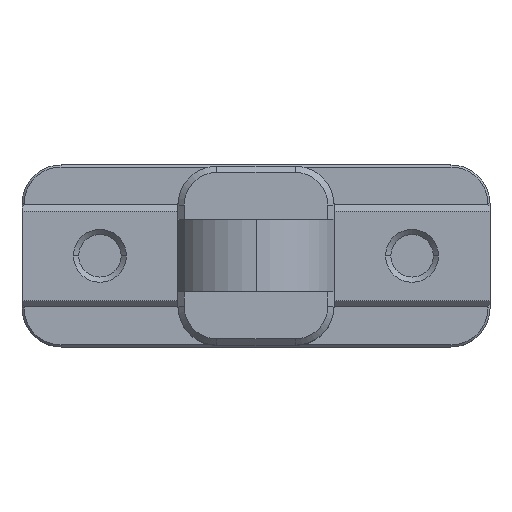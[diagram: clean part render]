
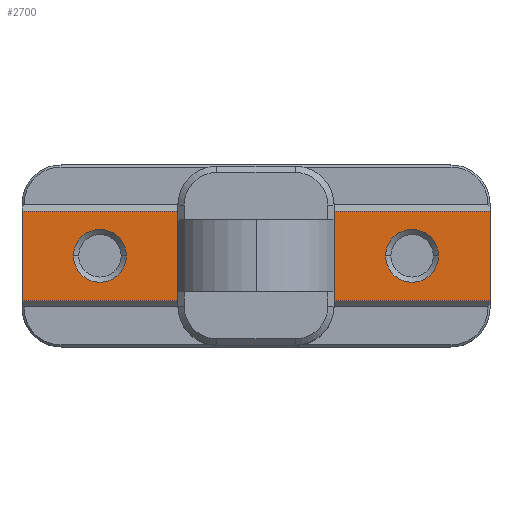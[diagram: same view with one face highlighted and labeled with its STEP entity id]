
A CAD part, top view. The second image highlights one B-rep face of the part: STEP entity #2700.
In plain terms, the highlighted planar face has unit normal (0, 0, 1).
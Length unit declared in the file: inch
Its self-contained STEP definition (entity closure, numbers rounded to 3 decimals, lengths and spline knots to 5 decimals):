
#223 = DIRECTION ( 'NONE',  ( 0., 0., -1. ) ) ;
#225 = FACE_BOUND ( 'NONE', #3395, .T. ) ;
#230 = CARTESIAN_POINT ( 'NONE',  ( -1.1245, -0.4375, 0.478 ) ) ;
#231 = FACE_BOUND ( 'NONE', #3396, .T. ) ;
#233 = FACE_OUTER_BOUND ( 'NONE', #3394, .T. ) ;
#234 = PLANE ( 'NONE',  #1378 ) ;
#236 = DIRECTION ( 'NONE',  ( -1., 0., 0. ) ) ;
#427 = VERTEX_POINT ( 'NONE', #3081 ) ;
#441 = VERTEX_POINT ( 'NONE', #3682 ) ;
#443 = VERTEX_POINT ( 'NONE', #3684 ) ;
#934 = LINE ( 'NONE', #935, #1073 ) ;
#935 = CARTESIAN_POINT ( 'NONE',  ( -1.1245, -0.4375, 0.478 ) ) ;
#936 = DIRECTION ( 'NONE',  ( 0., -1., 0. ) ) ;
#953 = CARTESIAN_POINT ( 'NONE',  ( -0.75, 0., 0.478 ) ) ;
#954 = DIRECTION ( 'NONE',  ( 0., 0., 1. ) ) ;
#955 = DIRECTION ( 'NONE',  ( 1., 0., 0. ) ) ;
#971 = CARTESIAN_POINT ( 'NONE',  ( 0.75, 0., 0.478 ) ) ;
#972 = DIRECTION ( 'NONE',  ( 0., 0., 1. ) ) ;
#973 = DIRECTION ( 'NONE',  ( 1., 0., 0. ) ) ;
#1073 = VECTOR ( 'NONE', #936, 39.37008 ) ;
#1076 = CIRCLE ( 'NONE', #1082, 0.127 ) ;
#1082 = AXIS2_PLACEMENT_3D ( 'NONE', #953, #954, #955 ) ;
#1089 = CIRCLE ( 'NONE', #1091, 0.127 ) ;
#1091 = AXIS2_PLACEMENT_3D ( 'NONE', #971, #972, #973 ) ;
#1359 = CIRCLE ( 'NONE', #1375, 0.127 ) ;
#1371 = VECTOR ( 'NONE', #5446, 39.37008 ) ;
#1375 = AXIS2_PLACEMENT_3D ( 'NONE', #5448, #5449, #5450 ) ;
#1378 = AXIS2_PLACEMENT_3D ( 'NONE', #230, #223, #236 ) ;
#1384 = VECTOR ( 'NONE', #5443, 39.37008 ) ;
#2208 = CIRCLE ( 'NONE', #2209, 0.127 ) ;
#2209 = AXIS2_PLACEMENT_3D ( 'NONE', #5452, #5453, #5454 ) ;
#2700 = ADVANCED_FACE ( 'NONE', ( #231, #225, #233 ), #234, .F. ) ;
#2730 = EDGE_CURVE ( 'NONE', #4663, #443, #5441, .T. ) ;
#2731 = EDGE_CURVE ( 'NONE', #441, #427, #5445, .T. ) ;
#2732 = EDGE_CURVE ( 'NONE', #4664, #4662, #1359, .T. ) ;
#2733 = EDGE_CURVE ( 'NONE', #4658, #4657, #2208, .T. ) ;
#2749 = EDGE_CURVE ( 'NONE', #443, #441, #5498, .T. ) ;
#2929 = EDGE_CURVE ( 'NONE', #427, #4663, #934, .T. ) ;
#2935 = EDGE_CURVE ( 'NONE', #4662, #4664, #1076, .T. ) ;
#2941 = EDGE_CURVE ( 'NONE', #4657, #4658, #1089, .T. ) ;
#3081 = CARTESIAN_POINT ( 'NONE',  ( -1.1245, 0.215, 0.478 ) ) ;
#3394 = EDGE_LOOP ( 'NONE', ( #4838, #4837, #4836, #4835 ) ) ;
#3395 = EDGE_LOOP ( 'NONE', ( #4840, #4839 ) ) ;
#3396 = EDGE_LOOP ( 'NONE', ( #4842, #4841 ) ) ;
#3682 = CARTESIAN_POINT ( 'NONE',  ( 1.1245, 0.215, 0.478 ) ) ;
#3684 = CARTESIAN_POINT ( 'NONE',  ( 1.1245, -0.215, 0.478 ) ) ;
#4458 = CARTESIAN_POINT ( 'NONE',  ( 0.623, 0., 0.478 ) ) ;
#4459 = CARTESIAN_POINT ( 'NONE',  ( 0.877, 0., 0.478 ) ) ;
#4463 = CARTESIAN_POINT ( 'NONE',  ( -0.877, 0., 0.478 ) ) ;
#4464 = CARTESIAN_POINT ( 'NONE',  ( -1.1245, -0.215, 0.478 ) ) ;
#4465 = CARTESIAN_POINT ( 'NONE',  ( -0.623, 0., 0.478 ) ) ;
#4657 = VERTEX_POINT ( 'NONE', #4458 ) ;
#4658 = VERTEX_POINT ( 'NONE', #4459 ) ;
#4662 = VERTEX_POINT ( 'NONE', #4463 ) ;
#4663 = VERTEX_POINT ( 'NONE', #4464 ) ;
#4664 = VERTEX_POINT ( 'NONE', #4465 ) ;
#4821 = VECTOR ( 'NONE', #5500, 39.37008 ) ;
#4835 = ORIENTED_EDGE ( 'NONE', *, *, #2730, .T. ) ;
#4836 = ORIENTED_EDGE ( 'NONE', *, *, #2929, .T. ) ;
#4837 = ORIENTED_EDGE ( 'NONE', *, *, #2731, .T. ) ;
#4838 = ORIENTED_EDGE ( 'NONE', *, *, #2749, .T. ) ;
#4839 = ORIENTED_EDGE ( 'NONE', *, *, #2935, .F. ) ;
#4840 = ORIENTED_EDGE ( 'NONE', *, *, #2732, .F. ) ;
#4841 = ORIENTED_EDGE ( 'NONE', *, *, #2941, .F. ) ;
#4842 = ORIENTED_EDGE ( 'NONE', *, *, #2733, .F. ) ;
#5441 = LINE ( 'NONE', #5442, #1384 ) ;
#5442 = CARTESIAN_POINT ( 'NONE',  ( 1.1145, -0.215, 0.478 ) ) ;
#5443 = DIRECTION ( 'NONE',  ( 1., 0., 0. ) ) ;
#5444 = CARTESIAN_POINT ( 'NONE',  ( -1.1145, 0.215, 0.478 ) ) ;
#5445 = LINE ( 'NONE', #5444, #1371 ) ;
#5446 = DIRECTION ( 'NONE',  ( -1., 0., 0. ) ) ;
#5448 = CARTESIAN_POINT ( 'NONE',  ( -0.75, 0., 0.478 ) ) ;
#5449 = DIRECTION ( 'NONE',  ( 0., 0., 1. ) ) ;
#5450 = DIRECTION ( 'NONE',  ( 1., 0., 0. ) ) ;
#5452 = CARTESIAN_POINT ( 'NONE',  ( 0.75, 0., 0.478 ) ) ;
#5453 = DIRECTION ( 'NONE',  ( 0., 0., 1. ) ) ;
#5454 = DIRECTION ( 'NONE',  ( 1., 0., 0. ) ) ;
#5498 = LINE ( 'NONE', #5499, #4821 ) ;
#5499 = CARTESIAN_POINT ( 'NONE',  ( 1.1245, -0.4375, 0.478 ) ) ;
#5500 = DIRECTION ( 'NONE',  ( 0., 1., 0. ) ) ;
